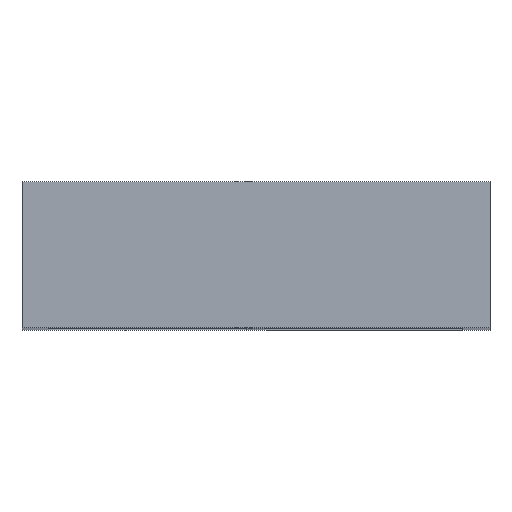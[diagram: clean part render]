
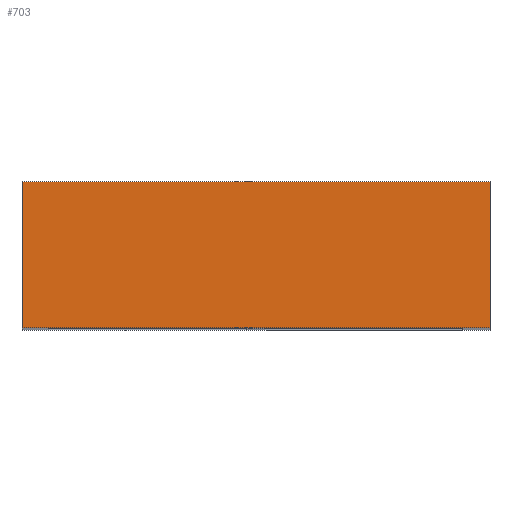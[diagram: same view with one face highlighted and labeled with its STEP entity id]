
A CAD part, top view. The second image highlights one B-rep face of the part: STEP entity #703.
In plain terms, the highlighted planar face has unit normal (0, 0, 1).
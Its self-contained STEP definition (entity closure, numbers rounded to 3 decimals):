
#11 = DIRECTION ( 'NONE',  ( 1., 0., 0. ) ) ;
#23 = CARTESIAN_POINT ( 'NONE',  ( -104., 65., 289.5 ) ) ;
#29 = DIRECTION ( 'NONE',  ( 0., -1., 0. ) ) ;
#32 = DIRECTION ( 'NONE',  ( 1., 0., 0. ) ) ;
#34 = CARTESIAN_POINT ( 'NONE',  ( -104., 0., 289.5 ) ) ;
#60 = CARTESIAN_POINT ( 'NONE',  ( 104., 65., 289.5 ) ) ;
#86 = VERTEX_POINT ( 'NONE', #116 ) ;
#88 = VERTEX_POINT ( 'NONE', #118 ) ;
#95 = VERTEX_POINT ( 'NONE', #125 ) ;
#106 = VERTEX_POINT ( 'NONE', #136 ) ;
#116 = CARTESIAN_POINT ( 'NONE',  ( 104., 0., 289.5 ) ) ;
#118 = CARTESIAN_POINT ( 'NONE',  ( -104., 0., 289.5 ) ) ;
#125 = CARTESIAN_POINT ( 'NONE',  ( -104., 65., 289.5 ) ) ;
#136 = CARTESIAN_POINT ( 'NONE',  ( 104., 65., 289.5 ) ) ;
#152 = CARTESIAN_POINT ( 'NONE',  ( -104., 65., 289.5 ) ) ;
#153 = DIRECTION ( 'NONE',  ( 0., -1., 0. ) ) ;
#226 = EDGE_CURVE ( 'NONE', #95, #88, #420, .T. ) ;
#278 = EDGE_CURVE ( 'NONE', #106, #86, #679, .T. ) ;
#295 = EDGE_CURVE ( 'NONE', #88, #86, #580, .T. ) ;
#298 = EDGE_CURVE ( 'NONE', #95, #106, #616, .T. ) ;
#327 = AXIS2_PLACEMENT_3D ( 'NONE', #784, #790, #791 ) ;
#363 = ORIENTED_EDGE ( 'NONE', *, *, #295, .T. ) ;
#366 = ORIENTED_EDGE ( 'NONE', *, *, #226, .T. ) ;
#420 = LINE ( 'NONE', #152, #475 ) ;
#475 = VECTOR ( 'NONE', #153, 1000. ) ;
#485 = ORIENTED_EDGE ( 'NONE', *, *, #298, .F. ) ;
#486 = ORIENTED_EDGE ( 'NONE', *, *, #278, .F. ) ;
#542 = EDGE_LOOP ( 'NONE', ( #363, #486, #485, #366 ) ) ;
#580 = LINE ( 'NONE', #34, #581 ) ;
#581 = VECTOR ( 'NONE', #32, 1000. ) ;
#616 = LINE ( 'NONE', #23, #617 ) ;
#617 = VECTOR ( 'NONE', #11, 1000. ) ;
#662 = FACE_OUTER_BOUND ( 'NONE', #542, .T. ) ;
#679 = LINE ( 'NONE', #60, #680 ) ;
#680 = VECTOR ( 'NONE', #29, 1000. ) ;
#703 = ADVANCED_FACE ( 'NONE', ( #662 ), #781, .F. ) ;
#781 = PLANE ( 'NONE',  #327 ) ;
#784 = CARTESIAN_POINT ( 'NONE',  ( -104., 65., 289.5 ) ) ;
#790 = DIRECTION ( 'NONE',  ( 0., 0., -1. ) ) ;
#791 = DIRECTION ( 'NONE',  ( -1., 0., 0. ) ) ;
